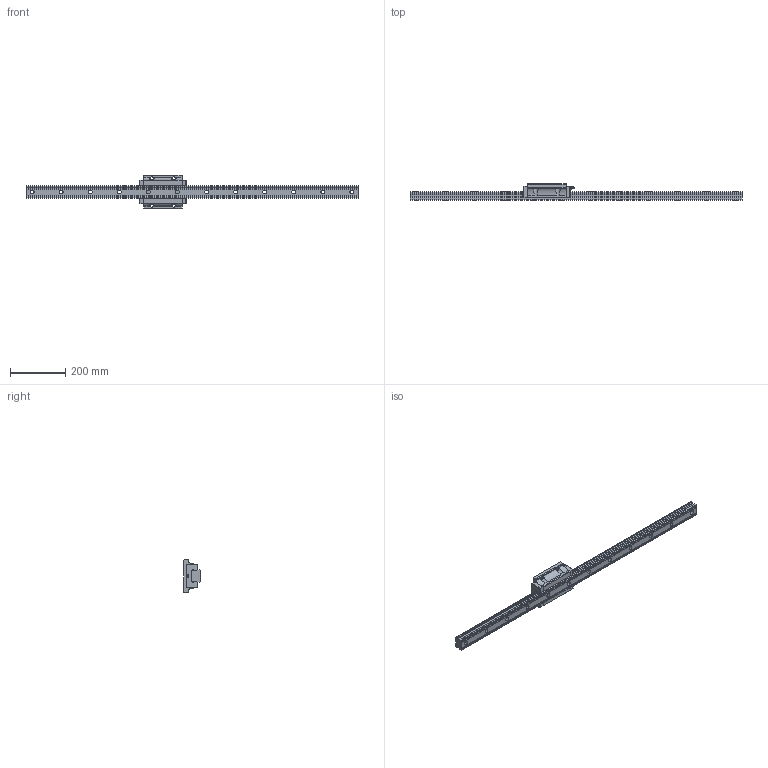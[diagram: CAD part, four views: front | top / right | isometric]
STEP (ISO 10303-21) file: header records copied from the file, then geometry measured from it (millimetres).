
FILE_DESCRIPTION (( 'STEP AP214' ), '1' );
FILE_NAME ('EGH45FL.STEP', '2021-07-06T08:40:55', ( '' ), ( '' ), 'SwSTEP 2.0', 'SolidWorks 2019', '' );
FILE_SCHEMA (( 'AUTOMOTIVE_DESIGN' ));
Length unit declared in the file: millimetre
Products named in the file (4): EGH45FLキャリッジ; M8グリースニップル; EG45レール; EGH45FL
Assembly tree (3 placements, depth 2):
  EGH45FL
    EG45レール
    EGH45FLキャリッジ
    M8グリースニップル
Bounding box: 1200 x 60 x 120 mm (x, y, z)
Volume: 2109210.4 mm3; surface area: 298883 mm2
Topology: 7 solids, 7 shells, 349 faces, 954 edges, 634 vertices
Faces by surface type: plane 195, cylinder 136, cone 8, bspline 6, torus 3, sphere 1
Full cylindrical faces by diameter (mm): 7.75 x1, 8 x6, 10.6 x4, 14 x12, 20 x12
Entity records: 14701 total; most frequent: CARTESIAN_POINT 2856, DIRECTION 1852, ORIENTED_EDGE 1810, EDGE_CURVE 905, AXIS2_PLACEMENT_3D 631, VERTEX_POINT 630, LINE 590, VECTOR 590
